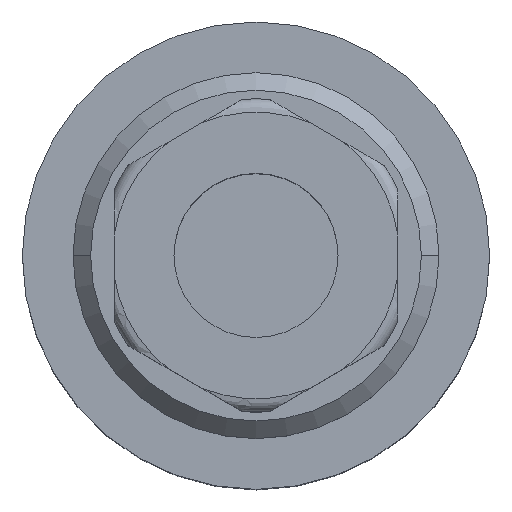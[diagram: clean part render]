
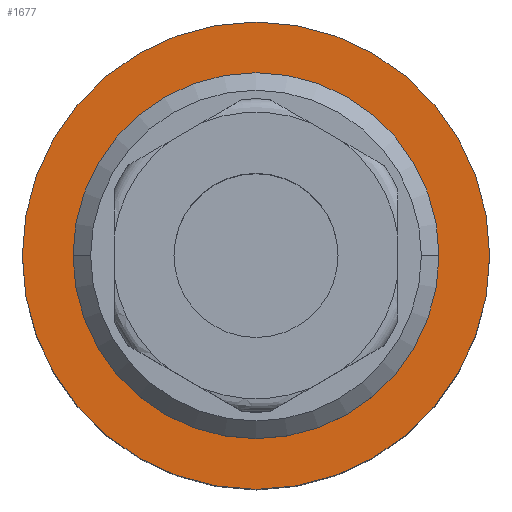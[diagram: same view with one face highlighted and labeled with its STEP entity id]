
A CAD part, top view. The second image highlights one B-rep face of the part: STEP entity #1677.
In plain terms, the highlighted planar face has unit normal (0, 0, 1).
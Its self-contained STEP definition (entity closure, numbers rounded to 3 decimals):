
#1636=CARTESIAN_POINT('Axis2P3D Location',(0.,0.,-4.5)) ;
#1641=CARTESIAN_POINT('Axis2P3D Location',(0.,0.,-4.5)) ;
#1645=CARTESIAN_POINT('Vertex',(-26.5,0.,-4.5)) ;
#1647=CARTESIAN_POINT('Vertex',(26.5,0.,-4.5)) ;
#1650=CARTESIAN_POINT('Axis2P3D Location',(0.,0.,-4.5)) ;
#1659=CARTESIAN_POINT('Axis2P3D Location',(0.,0.,-4.5)) ;
#1663=CARTESIAN_POINT('Vertex',(-20.75,0.,-4.5)) ;
#1665=CARTESIAN_POINT('Vertex',(20.75,0.,-4.5)) ;
#1668=CARTESIAN_POINT('Axis2P3D Location',(0.,0.,-4.5)) ;
#1637=DIRECTION('Axis2P3D Direction',(0.,0.,-1.)) ;
#1638=DIRECTION('Axis2P3D XDirection',(1.,0.,0.)) ;
#1642=DIRECTION('Axis2P3D Direction',(0.,0.,-1.)) ;
#1651=DIRECTION('Axis2P3D Direction',(0.,0.,-1.)) ;
#1660=DIRECTION('Axis2P3D Direction',(0.,0.,-1.)) ;
#1669=DIRECTION('Axis2P3D Direction',(0.,0.,-1.)) ;
#1639=AXIS2_PLACEMENT_3D('Plane Axis2P3D',#1636,#1637,#1638) ;
#1643=AXIS2_PLACEMENT_3D('Circle Axis2P3D',#1641,#1642,$) ;
#1652=AXIS2_PLACEMENT_3D('Circle Axis2P3D',#1650,#1651,$) ;
#1661=AXIS2_PLACEMENT_3D('Circle Axis2P3D',#1659,#1660,$) ;
#1670=AXIS2_PLACEMENT_3D('Circle Axis2P3D',#1668,#1669,$) ;
#1656=ORIENTED_EDGE('',*,*,#1649,.F.) ;
#1657=ORIENTED_EDGE('',*,*,#1654,.F.) ;
#1674=ORIENTED_EDGE('',*,*,#1667,.T.) ;
#1675=ORIENTED_EDGE('',*,*,#1672,.T.) ;
#1676=FACE_BOUND('',#1673,.T.) ;
#1677=ADVANCED_FACE('PartBody',(#1658,#1676),#1640,.F.) ;
#1644=CIRCLE('generated circle',#1643,26.5) ;
#1653=CIRCLE('generated circle',#1652,26.5) ;
#1662=CIRCLE('generated circle',#1661,20.75) ;
#1671=CIRCLE('generated circle',#1670,20.75) ;
#1649=EDGE_CURVE('',#1646,#1648,#1644,.T.) ;
#1654=EDGE_CURVE('',#1648,#1646,#1653,.T.) ;
#1667=EDGE_CURVE('',#1664,#1666,#1662,.T.) ;
#1672=EDGE_CURVE('',#1666,#1664,#1671,.T.) ;
#1655=EDGE_LOOP('',(#1656,#1657)) ;
#1673=EDGE_LOOP('',(#1674,#1675)) ;
#1658=FACE_OUTER_BOUND('',#1655,.T.) ;
#1640=PLANE('',#1639) ;
#1646=VERTEX_POINT('',#1645) ;
#1648=VERTEX_POINT('',#1647) ;
#1664=VERTEX_POINT('',#1663) ;
#1666=VERTEX_POINT('',#1665) ;
